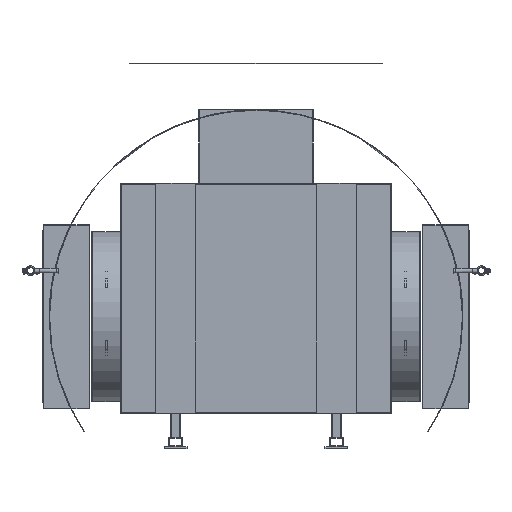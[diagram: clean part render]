
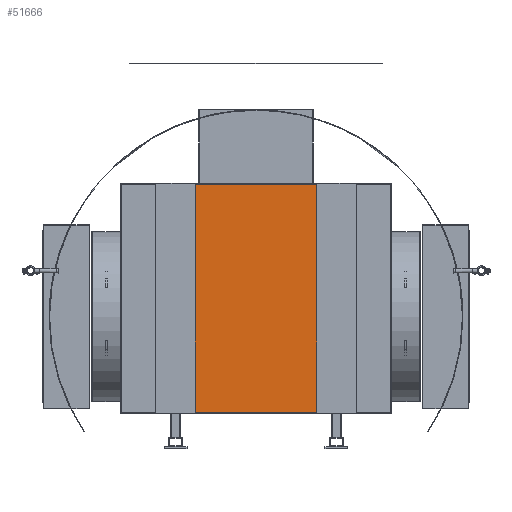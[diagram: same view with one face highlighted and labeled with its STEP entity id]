
A CAD part, left-side view. The second image highlights one B-rep face of the part: STEP entity #51666.
In plain terms, the highlighted planar face has unit normal (-1, 0, 0).
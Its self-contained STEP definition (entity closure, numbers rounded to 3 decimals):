
#51666 = ADVANCED_FACE('',(#51667),#51681,.F.);
#51667 = FACE_BOUND('',#51668,.F.);
#51668 = EDGE_LOOP('',(#51669,#51704,#51732,#51760));
#51669 = ORIENTED_EDGE('',*,*,#51670,.F.);
#51670 = EDGE_CURVE('',#51671,#51673,#51675,.T.);
#51671 = VERTEX_POINT('',#51672);
#51672 = CARTESIAN_POINT('',(4700.,-265.,1930.));
#51673 = VERTEX_POINT('',#51674);
#51674 = CARTESIAN_POINT('',(4700.,-265.,2930.));
#51675 = SURFACE_CURVE('',#51676,(#51680,#51692),.PCURVE_S1.);
#51676 = LINE('',#51677,#51678);
#51677 = CARTESIAN_POINT('',(4700.,-265.,1930.));
#51678 = VECTOR('',#51679,1.);
#51679 = DIRECTION('',(0.,0.,1.));
#51680 = PCURVE('',#51681,#51686);
#51681 = PLANE('',#51682);
#51682 = AXIS2_PLACEMENT_3D('',#51683,#51684,#51685);
#51683 = CARTESIAN_POINT('',(4700.,-265.,1930.));
#51684 = DIRECTION('',(1.,0.,0.));
#51685 = DIRECTION('',(0.,0.,1.));
#51686 = DEFINITIONAL_REPRESENTATION('',(#51687),#51691);
#51687 = LINE('',#51688,#51689);
#51688 = CARTESIAN_POINT('',(0.,0.));
#51689 = VECTOR('',#51690,1.);
#51690 = DIRECTION('',(1.,0.));
#51691 = ( GEOMETRIC_REPRESENTATION_CONTEXT(2) 
PARAMETRIC_REPRESENTATION_CONTEXT() REPRESENTATION_CONTEXT('2D SPACE',''
  ) );
#51692 = PCURVE('',#51693,#51698);
#51693 = PLANE('',#51694);
#51694 = AXIS2_PLACEMENT_3D('',#51695,#51696,#51697);
#51695 = CARTESIAN_POINT('',(4700.,-265.,1930.));
#51696 = DIRECTION('',(0.,1.,0.));
#51697 = DIRECTION('',(0.,0.,1.));
#51698 = DEFINITIONAL_REPRESENTATION('',(#51699),#51703);
#51699 = LINE('',#51700,#51701);
#51700 = CARTESIAN_POINT('',(0.,0.));
#51701 = VECTOR('',#51702,1.);
#51702 = DIRECTION('',(1.,0.));
#51703 = ( GEOMETRIC_REPRESENTATION_CONTEXT(2) 
PARAMETRIC_REPRESENTATION_CONTEXT() REPRESENTATION_CONTEXT('2D SPACE',''
  ) );
#51704 = ORIENTED_EDGE('',*,*,#51705,.T.);
#51705 = EDGE_CURVE('',#51671,#51706,#51708,.T.);
#51706 = VERTEX_POINT('',#51707);
#51707 = CARTESIAN_POINT('',(4700.,265.,1930.));
#51708 = SURFACE_CURVE('',#51709,(#51713,#51720),.PCURVE_S1.);
#51709 = LINE('',#51710,#51711);
#51710 = CARTESIAN_POINT('',(4700.,-265.,1930.));
#51711 = VECTOR('',#51712,1.);
#51712 = DIRECTION('',(0.,1.,0.));
#51713 = PCURVE('',#51681,#51714);
#51714 = DEFINITIONAL_REPRESENTATION('',(#51715),#51719);
#51715 = LINE('',#51716,#51717);
#51716 = CARTESIAN_POINT('',(0.,0.));
#51717 = VECTOR('',#51718,1.);
#51718 = DIRECTION('',(0.,-1.));
#51719 = ( GEOMETRIC_REPRESENTATION_CONTEXT(2) 
PARAMETRIC_REPRESENTATION_CONTEXT() REPRESENTATION_CONTEXT('2D SPACE',''
  ) );
#51720 = PCURVE('',#51721,#51726);
#51721 = PLANE('',#51722);
#51722 = AXIS2_PLACEMENT_3D('',#51723,#51724,#51725);
#51723 = CARTESIAN_POINT('',(4700.,-265.,1930.));
#51724 = DIRECTION('',(0.,0.,1.));
#51725 = DIRECTION('',(1.,0.,0.));
#51726 = DEFINITIONAL_REPRESENTATION('',(#51727),#51731);
#51727 = LINE('',#51728,#51729);
#51728 = CARTESIAN_POINT('',(0.,0.));
#51729 = VECTOR('',#51730,1.);
#51730 = DIRECTION('',(0.,1.));
#51731 = ( GEOMETRIC_REPRESENTATION_CONTEXT(2) 
PARAMETRIC_REPRESENTATION_CONTEXT() REPRESENTATION_CONTEXT('2D SPACE',''
  ) );
#51732 = ORIENTED_EDGE('',*,*,#51733,.T.);
#51733 = EDGE_CURVE('',#51706,#51734,#51736,.T.);
#51734 = VERTEX_POINT('',#51735);
#51735 = CARTESIAN_POINT('',(4700.,265.,2930.));
#51736 = SURFACE_CURVE('',#51737,(#51741,#51748),.PCURVE_S1.);
#51737 = LINE('',#51738,#51739);
#51738 = CARTESIAN_POINT('',(4700.,265.,1930.));
#51739 = VECTOR('',#51740,1.);
#51740 = DIRECTION('',(0.,0.,1.));
#51741 = PCURVE('',#51681,#51742);
#51742 = DEFINITIONAL_REPRESENTATION('',(#51743),#51747);
#51743 = LINE('',#51744,#51745);
#51744 = CARTESIAN_POINT('',(0.,-530.));
#51745 = VECTOR('',#51746,1.);
#51746 = DIRECTION('',(1.,0.));
#51747 = ( GEOMETRIC_REPRESENTATION_CONTEXT(2) 
PARAMETRIC_REPRESENTATION_CONTEXT() REPRESENTATION_CONTEXT('2D SPACE',''
  ) );
#51748 = PCURVE('',#51749,#51754);
#51749 = PLANE('',#51750);
#51750 = AXIS2_PLACEMENT_3D('',#51751,#51752,#51753);
#51751 = CARTESIAN_POINT('',(4700.,265.,1930.));
#51752 = DIRECTION('',(0.,1.,0.));
#51753 = DIRECTION('',(0.,0.,1.));
#51754 = DEFINITIONAL_REPRESENTATION('',(#51755),#51759);
#51755 = LINE('',#51756,#51757);
#51756 = CARTESIAN_POINT('',(0.,0.));
#51757 = VECTOR('',#51758,1.);
#51758 = DIRECTION('',(1.,0.));
#51759 = ( GEOMETRIC_REPRESENTATION_CONTEXT(2) 
PARAMETRIC_REPRESENTATION_CONTEXT() REPRESENTATION_CONTEXT('2D SPACE',''
  ) );
#51760 = ORIENTED_EDGE('',*,*,#51761,.F.);
#51761 = EDGE_CURVE('',#51673,#51734,#51762,.T.);
#51762 = SURFACE_CURVE('',#51763,(#51767,#51774),.PCURVE_S1.);
#51763 = LINE('',#51764,#51765);
#51764 = CARTESIAN_POINT('',(4700.,-265.,2930.));
#51765 = VECTOR('',#51766,1.);
#51766 = DIRECTION('',(0.,1.,0.));
#51767 = PCURVE('',#51681,#51768);
#51768 = DEFINITIONAL_REPRESENTATION('',(#51769),#51773);
#51769 = LINE('',#51770,#51771);
#51770 = CARTESIAN_POINT('',(1000.,0.));
#51771 = VECTOR('',#51772,1.);
#51772 = DIRECTION('',(0.,-1.));
#51773 = ( GEOMETRIC_REPRESENTATION_CONTEXT(2) 
PARAMETRIC_REPRESENTATION_CONTEXT() REPRESENTATION_CONTEXT('2D SPACE',''
  ) );
#51774 = PCURVE('',#51775,#51780);
#51775 = PLANE('',#51776);
#51776 = AXIS2_PLACEMENT_3D('',#51777,#51778,#51779);
#51777 = CARTESIAN_POINT('',(4700.,-265.,2930.));
#51778 = DIRECTION('',(0.,0.,1.));
#51779 = DIRECTION('',(1.,0.,0.));
#51780 = DEFINITIONAL_REPRESENTATION('',(#51781),#51785);
#51781 = LINE('',#51782,#51783);
#51782 = CARTESIAN_POINT('',(0.,0.));
#51783 = VECTOR('',#51784,1.);
#51784 = DIRECTION('',(0.,1.));
#51785 = ( GEOMETRIC_REPRESENTATION_CONTEXT(2) 
PARAMETRIC_REPRESENTATION_CONTEXT() REPRESENTATION_CONTEXT('2D SPACE',''
  ) );
